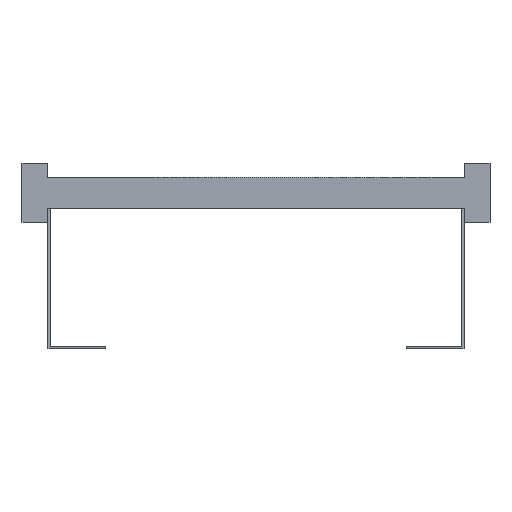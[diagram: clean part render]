
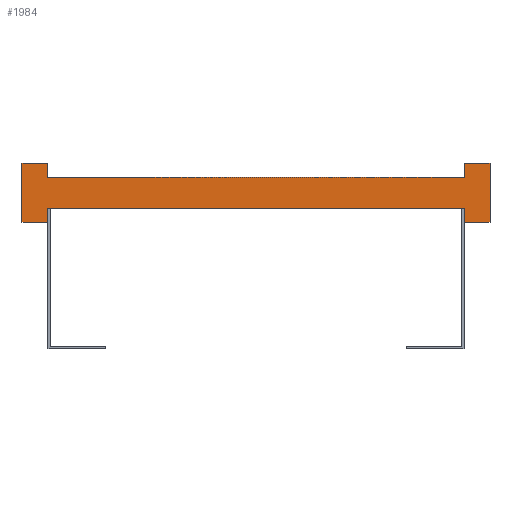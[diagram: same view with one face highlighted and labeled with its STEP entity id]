
A CAD part, front view. The second image highlights one B-rep face of the part: STEP entity #1984.
In plain terms, the highlighted planar face has unit normal (0, -1, 0).
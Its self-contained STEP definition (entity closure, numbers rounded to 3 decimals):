
#1=DIRECTION('',(0.,0.,1.));
#2=VECTOR('',#1,13.5);
#3=CARTESIAN_POINT('',(200.,0.,-28.5));
#4=LINE('',#3,#2);
#5=DIRECTION('',(0.,0.,-1.));
#6=VECTOR('',#5,13.5);
#7=CARTESIAN_POINT('',(-200.,0.,-15.));
#8=LINE('',#7,#6);
#9=DIRECTION('',(-1.,0.,0.));
#10=VECTOR('',#9,25.);
#11=CARTESIAN_POINT('',(-200.,0.,-28.5));
#12=LINE('',#11,#10);
#13=DIRECTION('',(0.,0.,1.));
#14=VECTOR('',#13,57.);
#15=CARTESIAN_POINT('',(-225.,0.,-28.5));
#16=LINE('',#15,#14);
#17=DIRECTION('',(1.,0.,0.));
#18=VECTOR('',#17,25.);
#19=CARTESIAN_POINT('',(-225.,0.,28.5));
#20=LINE('',#19,#18);
#21=DIRECTION('',(0.,0.,-1.));
#22=VECTOR('',#21,13.5);
#23=CARTESIAN_POINT('',(-200.,0.,28.5));
#24=LINE('',#23,#22);
#25=DIRECTION('',(0.,0.,1.));
#26=VECTOR('',#25,13.5);
#27=CARTESIAN_POINT('',(200.,0.,15.));
#28=LINE('',#27,#26);
#29=DIRECTION('',(1.,0.,0.));
#30=VECTOR('',#29,25.);
#31=CARTESIAN_POINT('',(200.,0.,28.5));
#32=LINE('',#31,#30);
#33=DIRECTION('',(0.,0.,-1.));
#34=VECTOR('',#33,57.);
#35=CARTESIAN_POINT('',(225.,0.,28.5));
#36=LINE('',#35,#34);
#37=DIRECTION('',(-1.,0.,0.));
#38=VECTOR('',#37,25.);
#39=CARTESIAN_POINT('',(225.,0.,-28.5));
#40=LINE('',#39,#38);
#1457=DIRECTION('',(1.,0.,0.));
#1458=VECTOR('',#1457,400.);
#1459=CARTESIAN_POINT('',(-200.,0.,-15.));
#1460=LINE('',#1459,#1458);
#1469=DIRECTION('',(1.,0.,0.));
#1470=VECTOR('',#1469,400.);
#1471=CARTESIAN_POINT('',(-200.,0.,15.));
#1472=LINE('',#1471,#1470);
#1473=CARTESIAN_POINT('',(-225.,0.,28.5));
#1474=CARTESIAN_POINT('',(-200.,0.,28.5));
#1475=VERTEX_POINT('',#1473);
#1476=VERTEX_POINT('',#1474);
#1477=CARTESIAN_POINT('',(-200.,0.,-28.5));
#1478=CARTESIAN_POINT('',(-225.,0.,-28.5));
#1479=VERTEX_POINT('',#1477);
#1480=VERTEX_POINT('',#1478);
#1481=CARTESIAN_POINT('',(225.,0.,28.5));
#1482=CARTESIAN_POINT('',(225.,0.,-28.5));
#1483=VERTEX_POINT('',#1481);
#1484=VERTEX_POINT('',#1482);
#1485=CARTESIAN_POINT('',(200.,0.,-28.5));
#1486=VERTEX_POINT('',#1485);
#1487=CARTESIAN_POINT('',(200.,0.,28.5));
#1488=VERTEX_POINT('',#1487);
#1505=CARTESIAN_POINT('',(-200.,0.,-15.));
#1507=VERTEX_POINT('',#1505);
#1509=CARTESIAN_POINT('',(-200.,0.,15.));
#1511=VERTEX_POINT('',#1509);
#1513=CARTESIAN_POINT('',(200.,0.,-15.));
#1515=VERTEX_POINT('',#1513);
#1517=CARTESIAN_POINT('',(200.,0.,15.));
#1519=VERTEX_POINT('',#1517);
#1953=CARTESIAN_POINT('',(0.,0.,0.));
#1954=DIRECTION('',(0.,1.,0.));
#1955=DIRECTION('',(1.,0.,0.));
#1956=AXIS2_PLACEMENT_3D('',#1953,#1954,#1955);
#1957=PLANE('',#1956);
#1959=ORIENTED_EDGE('',*,*,#1958,.T.);
#1961=ORIENTED_EDGE('',*,*,#1960,.F.);
#1963=ORIENTED_EDGE('',*,*,#1962,.T.);
#1965=ORIENTED_EDGE('',*,*,#1964,.T.);
#1967=ORIENTED_EDGE('',*,*,#1966,.T.);
#1969=ORIENTED_EDGE('',*,*,#1968,.T.);
#1971=ORIENTED_EDGE('',*,*,#1970,.T.);
#1973=ORIENTED_EDGE('',*,*,#1972,.T.);
#1975=ORIENTED_EDGE('',*,*,#1974,.T.);
#1977=ORIENTED_EDGE('',*,*,#1976,.T.);
#1979=ORIENTED_EDGE('',*,*,#1978,.T.);
#1981=ORIENTED_EDGE('',*,*,#1980,.T.);
#1982=EDGE_LOOP('',(#1959,#1961,#1963,#1965,#1967,#1969,#1971,#1973,#1975,#1977,
#1979,#1981));
#1983=FACE_OUTER_BOUND('',#1982,.F.);
#1984=ADVANCED_FACE('',(#1983),#1957,.F.);
#1958=EDGE_CURVE('',#1486,#1515,#4,.T.);
#1960=EDGE_CURVE('',#1507,#1515,#1460,.T.);
#1962=EDGE_CURVE('',#1507,#1479,#8,.T.);
#1964=EDGE_CURVE('',#1479,#1480,#12,.T.);
#1966=EDGE_CURVE('',#1480,#1475,#16,.T.);
#1968=EDGE_CURVE('',#1475,#1476,#20,.T.);
#1970=EDGE_CURVE('',#1476,#1511,#24,.T.);
#1972=EDGE_CURVE('',#1511,#1519,#1472,.T.);
#1974=EDGE_CURVE('',#1519,#1488,#28,.T.);
#1976=EDGE_CURVE('',#1488,#1483,#32,.T.);
#1978=EDGE_CURVE('',#1483,#1484,#36,.T.);
#1980=EDGE_CURVE('',#1484,#1486,#40,.T.);
